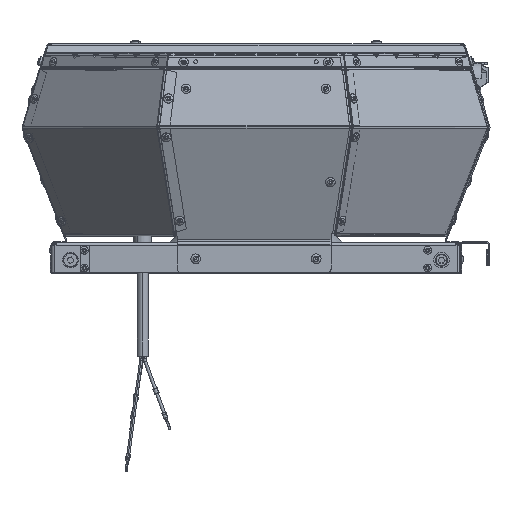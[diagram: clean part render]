
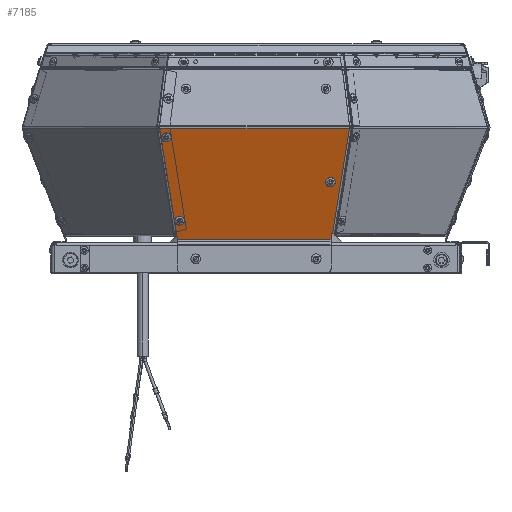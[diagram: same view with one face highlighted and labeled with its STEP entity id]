
A CAD part, top view. The second image highlights one B-rep face of the part: STEP entity #7185.
In plain terms, the highlighted planar face has unit normal (0, -0.362, 0.932).
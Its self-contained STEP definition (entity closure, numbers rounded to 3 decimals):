
#2977 = CIRCLE ( 'NONE', #80748, 2.1 ) ;
#3104 = LINE ( 'NONE', #89198, #3114 ) ;
#3113 = CIRCLE ( 'NONE', #80769, 2.1 ) ;
#3114 = VECTOR ( 'NONE', #89202, 1000. ) ;
#3199 = CIRCLE ( 'NONE', #80781, 2.1 ) ;
#3205 = CIRCLE ( 'NONE', #80783, 2.1 ) ;
#3300 = CIRCLE ( 'NONE', #80800, 2.1 ) ;
#3424 = LINE ( 'NONE', #89423, #3448 ) ;
#3448 = VECTOR ( 'NONE', #89419, 1000. ) ;
#3500 = LINE ( 'NONE', #89459, #3514 ) ;
#3514 = VECTOR ( 'NONE', #89466, 1000. ) ;
#3659 = LINE ( 'NONE', #89553, #3668 ) ;
#3668 = VECTOR ( 'NONE', #89555, 1000. ) ;
#3778 = CIRCLE ( 'NONE', #80874, 2.1 ) ;
#3867 = LINE ( 'NONE', #89887, #3878 ) ;
#3878 = VECTOR ( 'NONE', #89882, 1000. ) ;
#4507 = LINE ( 'NONE', #19916, #4513 ) ;
#4513 = VECTOR ( 'NONE', #19917, 1000. ) ;
#5785 = DIRECTION ( 'NONE',  ( -1., 0., 0. ) ) ;
#5825 = CARTESIAN_POINT ( 'NONE',  ( -65.164, 4.499, 158.165 ) ) ;
#5827 = CARTESIAN_POINT ( 'NONE',  ( 80., 96.601, 193.982 ) ) ;
#5829 = DIRECTION ( 'NONE',  ( -0.148, 0.922, 0.358 ) ) ;
#7185 = ADVANCED_FACE ( 'NONE', ( #86920, #86923, #86921, #86922 ), #56435, .F. ) ;
#11131 = ORIENTED_EDGE ( 'NONE', *, *, #71716, .F. ) ;
#11132 = ORIENTED_EDGE ( 'NONE', *, *, #71552, .F. ) ;
#11133 = ORIENTED_EDGE ( 'NONE', *, *, #71501, .T. ) ;
#11134 = ORIENTED_EDGE ( 'NONE', *, *, #71602, .T. ) ;
#12376 = CARTESIAN_POINT ( 'NONE',  ( -80., 96.601, 193.982 ) ) ;
#19916 = CARTESIAN_POINT ( 'NONE',  ( 77.58, 96.532, 193.955 ) ) ;
#19917 = DIRECTION ( 'NONE',  ( 0., -0.932, -0.362 ) ) ;
#26856 = LINE ( 'NONE', #5825, #26859 ) ;
#26859 = VECTOR ( 'NONE', #5829, 1000. ) ;
#26862 = LINE ( 'NONE', #5827, #26864 ) ;
#26864 = VECTOR ( 'NONE', #5785, 1000. ) ;
#47538 = AXIS2_PLACEMENT_3D ( 'NONE', #56456, #56338, #56458 ) ;
#49289 = CARTESIAN_POINT ( 'NONE',  ( -74.512, 87.445, 190.421 ) ) ;
#49296 = CARTESIAN_POINT ( 'NONE',  ( 77.589, 96.529, 193.954 ) ) ;
#49328 = CARTESIAN_POINT ( 'NONE',  ( -63.383, 18.319, 163.539 ) ) ;
#49330 = CARTESIAN_POINT ( 'NONE',  ( 62.259, 9.286, 160.026 ) ) ;
#49393 = CARTESIAN_POINT ( 'NONE',  ( 61.664, 50.251, 175.957 ) ) ;
#49599 = CARTESIAN_POINT ( 'NONE',  ( -74.512, 91.359, 191.943 ) ) ;
#49696 = CARTESIAN_POINT ( 'NONE',  ( -63.383, 22.233, 165.062 ) ) ;
#49723 = CARTESIAN_POINT ( 'NONE',  ( 63.536, 9.286, 160.026 ) ) ;
#52309 = VERTEX_POINT ( 'NONE', #57341 ) ;
#52479 = VERTEX_POINT ( 'NONE', #57473 ) ;
#52494 = VERTEX_POINT ( 'NONE', #57486 ) ;
#52521 = VERTEX_POINT ( 'NONE', #57508 ) ;
#56338 = DIRECTION ( 'NONE',  ( 0., 0.362, -0.932 ) ) ;
#56435 = PLANE ( 'NONE',  #47538 ) ;
#56456 = CARTESIAN_POINT ( 'NONE',  ( 80., 97.367, 194.279 ) ) ;
#56458 = DIRECTION ( 'NONE',  ( 0., 0.932, 0.362 ) ) ;
#57341 = CARTESIAN_POINT ( 'NONE',  ( 61.664, 54.166, 177.48 ) ) ;
#57473 = CARTESIAN_POINT ( 'NONE',  ( -65.164, 4.499, 158.165 ) ) ;
#57486 = CARTESIAN_POINT ( 'NONE',  ( 77.58, 96.532, 193.955 ) ) ;
#57508 = CARTESIAN_POINT ( 'NONE',  ( 62.259, 4.499, 158.165 ) ) ;
#62641 = ORIENTED_EDGE ( 'NONE', *, *, #71577, .T. ) ;
#62642 = ORIENTED_EDGE ( 'NONE', *, *, #71575, .T. ) ;
#62643 = ORIENTED_EDGE ( 'NONE', *, *, #71683, .F. ) ;
#62644 = ORIENTED_EDGE ( 'NONE', *, *, #71636, .F. ) ;
#62645 = ORIENTED_EDGE ( 'NONE', *, *, #71651, .F. ) ;
#62646 = ORIENTED_EDGE ( 'NONE', *, *, #71550, .T. ) ;
#62647 = ORIENTED_EDGE ( 'NONE', *, *, #71740, .F. ) ;
#62648 = ORIENTED_EDGE ( 'NONE', *, *, #71993, .F. ) ;
#62649 = ORIENTED_EDGE ( 'NONE', *, *, #72537, .T. ) ;
#62650 = ORIENTED_EDGE ( 'NONE', *, *, #72531, .F. ) ;
#71501 = EDGE_CURVE ( 'NONE', #84732, #84565, #2977, .T. ) ;
#71550 = EDGE_CURVE ( 'NONE', #84829, #84569, #3104, .T. ) ;
#71552 = EDGE_CURVE ( 'NONE', #52309, #84621, #3113, .T. ) ;
#71575 = EDGE_CURVE ( 'NONE', #84586, #84784, #3199, .T. ) ;
#71577 = EDGE_CURVE ( 'NONE', #84784, #84586, #3205, .T. ) ;
#71602 = EDGE_CURVE ( 'NONE', #84565, #84732, #3300, .T. ) ;
#71636 = EDGE_CURVE ( 'NONE', #84587, #52521, #3424, .T. ) ;
#71651 = EDGE_CURVE ( 'NONE', #84829, #84587, #3500, .T. ) ;
#71683 = EDGE_CURVE ( 'NONE', #52521, #52479, #3659, .T. ) ;
#71716 = EDGE_CURVE ( 'NONE', #84621, #52309, #3778, .T. ) ;
#71740 = EDGE_CURVE ( 'NONE', #52494, #84569, #3867, .T. ) ;
#71993 = EDGE_CURVE ( 'NONE', #91143, #52494, #4507, .T. ) ;
#72531 = EDGE_CURVE ( 'NONE', #52479, #84932, #26856, .T. ) ;
#72537 = EDGE_CURVE ( 'NONE', #91143, #84932, #26862, .T. ) ;
#74645 = EDGE_LOOP ( 'NONE', ( #62643, #62644, #62645, #62646, #62647, #62648, #62649, #62650 ) ) ;
#74857 = EDGE_LOOP ( 'NONE', ( #11131, #11132 ) ) ;
#75187 = EDGE_LOOP ( 'NONE', ( #62641, #62642 ) ) ;
#76245 = EDGE_LOOP ( 'NONE', ( #11133, #11134 ) ) ;
#80748 = AXIS2_PLACEMENT_3D ( 'NONE', #89083, #89084, #89085 ) ;
#80769 = AXIS2_PLACEMENT_3D ( 'NONE', #89207, #89208, #89209 ) ;
#80781 = AXIS2_PLACEMENT_3D ( 'NONE', #89262, #89263, #89264 ) ;
#80783 = AXIS2_PLACEMENT_3D ( 'NONE', #89269, #89270, #89271 ) ;
#80800 = AXIS2_PLACEMENT_3D ( 'NONE', #89336, #89337, #89338 ) ;
#80874 = AXIS2_PLACEMENT_3D ( 'NONE', #89751, #89752, #89754 ) ;
#84565 = VERTEX_POINT ( 'NONE', #49289 ) ;
#84569 = VERTEX_POINT ( 'NONE', #49296 ) ;
#84586 = VERTEX_POINT ( 'NONE', #49328 ) ;
#84587 = VERTEX_POINT ( 'NONE', #49330 ) ;
#84621 = VERTEX_POINT ( 'NONE', #49393 ) ;
#84732 = VERTEX_POINT ( 'NONE', #49599 ) ;
#84784 = VERTEX_POINT ( 'NONE', #49696 ) ;
#84829 = VERTEX_POINT ( 'NONE', #49723 ) ;
#84932 = VERTEX_POINT ( 'NONE', #12376 ) ;
#86649 = CARTESIAN_POINT ( 'NONE',  ( 77.58, 96.601, 193.982 ) ) ;
#86920 = FACE_BOUND ( 'NONE', #74857, .T. ) ;
#86921 = FACE_BOUND ( 'NONE', #75187, .T. ) ;
#86922 = FACE_OUTER_BOUND ( 'NONE', #74645, .T. ) ;
#86923 = FACE_BOUND ( 'NONE', #76245, .T. ) ;
#89083 = CARTESIAN_POINT ( 'NONE',  ( -74.512, 89.402, 191.182 ) ) ;
#89084 = DIRECTION ( 'NONE',  ( 0., 0.362, -0.932 ) ) ;
#89085 = DIRECTION ( 'NONE',  ( 0., 0.932, 0.362 ) ) ;
#89198 = CARTESIAN_POINT ( 'NONE',  ( 62.817, 4.827, 158.293 ) ) ;
#89202 = DIRECTION ( 'NONE',  ( 0.148, 0.922, 0.358 ) ) ;
#89207 = CARTESIAN_POINT ( 'NONE',  ( 61.664, 52.209, 176.718 ) ) ;
#89208 = DIRECTION ( 'NONE',  ( 0., -0.362, 0.932 ) ) ;
#89209 = DIRECTION ( 'NONE',  ( 0., -0.932, -0.362 ) ) ;
#89262 = CARTESIAN_POINT ( 'NONE',  ( -63.383, 20.276, 164.301 ) ) ;
#89263 = DIRECTION ( 'NONE',  ( 0., 0.362, -0.932 ) ) ;
#89264 = DIRECTION ( 'NONE',  ( 0., 0.932, 0.362 ) ) ;
#89269 = CARTESIAN_POINT ( 'NONE',  ( -63.383, 20.276, 164.301 ) ) ;
#89270 = DIRECTION ( 'NONE',  ( 0., 0.362, -0.932 ) ) ;
#89271 = DIRECTION ( 'NONE',  ( 0., 0.932, 0.362 ) ) ;
#89336 = CARTESIAN_POINT ( 'NONE',  ( -74.512, 89.402, 191.182 ) ) ;
#89337 = DIRECTION ( 'NONE',  ( 0., 0.362, -0.932 ) ) ;
#89338 = DIRECTION ( 'NONE',  ( 0., 0.932, 0.362 ) ) ;
#89419 = DIRECTION ( 'NONE',  ( 0., -0.932, -0.362 ) ) ;
#89423 = CARTESIAN_POINT ( 'NONE',  ( 62.259, -7.491, 153.503 ) ) ;
#89459 = CARTESIAN_POINT ( 'NONE',  ( 62.259, 9.286, 160.026 ) ) ;
#89466 = DIRECTION ( 'NONE',  ( -1., 0., 0. ) ) ;
#89553 = CARTESIAN_POINT ( 'NONE',  ( 80., 4.499, 158.165 ) ) ;
#89555 = DIRECTION ( 'NONE',  ( -1., 0., 0. ) ) ;
#89751 = CARTESIAN_POINT ( 'NONE',  ( 61.664, 52.209, 176.718 ) ) ;
#89752 = DIRECTION ( 'NONE',  ( 0., -0.362, 0.932 ) ) ;
#89754 = DIRECTION ( 'NONE',  ( 0., -0.932, -0.362 ) ) ;
#89882 = DIRECTION ( 'NONE',  ( 0.965, -0.245, -0.095 ) ) ;
#89887 = CARTESIAN_POINT ( 'NONE',  ( 77.58, 96.532, 193.955 ) ) ;
#91143 = VERTEX_POINT ( 'NONE', #86649 ) ;
